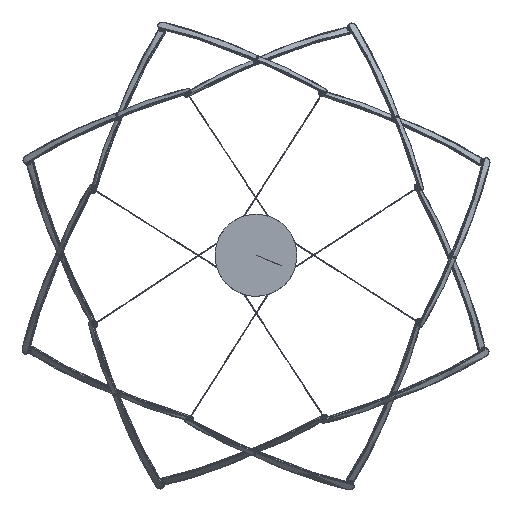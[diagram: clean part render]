
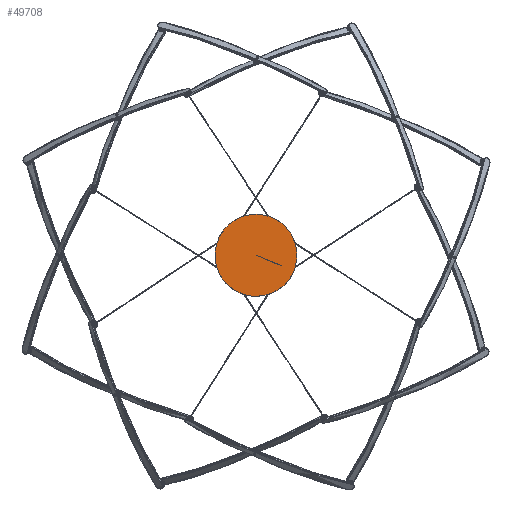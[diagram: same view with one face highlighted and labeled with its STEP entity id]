
A CAD part, top view. The second image highlights one B-rep face of the part: STEP entity #49708.
In plain terms, the highlighted free-form (B-spline) face has degree [3, 3] with [4, 11] control points.
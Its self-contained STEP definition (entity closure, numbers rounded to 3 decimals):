
#5763=B_SPLINE_CURVE_WITH_KNOTS('',3,(#160189,#160190,#160191,#160192),
 .UNSPECIFIED.,.F.,.F.,(4,4),(0.,1.),.UNSPECIFIED.);
#5764=B_SPLINE_CURVE_WITH_KNOTS('',3,(#160193,#160194,#160195,#160196,#160197,
#160198,#160199,#160200,#160201,#160202,#160203),.UNSPECIFIED.,.T.,.F.,
(4,1,1,1,1,1,1,1,4),(2.,3.,4.,5.,6.,7.,8.,9.,10.),.UNSPECIFIED.);
#6585=B_SPLINE_SURFACE_WITH_KNOTS('',3,3,((#160143,#160144,#160145,#160146,
#160147,#160148,#160149,#160150,#160151,#160152,#160153),(#160154,#160155,
#160156,#160157,#160158,#160159,#160160,#160161,#160162,#160163,#160164),
(#160165,#160166,#160167,#160168,#160169,#160170,#160171,#160172,#160173,
#160174,#160175),(#160176,#160177,#160178,#160179,#160180,#160181,#160182,
#160183,#160184,#160185,#160186)),.UNSPECIFIED.,.F.,.T.,.F.,(4,4),(4,1,
1,1,1,1,1,1,4),(0.,1.),(2.,3.,4.,5.,6.,7.,8.,9.,10.),.UNSPECIFIED.);
#10583=FACE_OUTER_BOUND('',#12742,.T.);
#12742=EDGE_LOOP('',(#46451,#46452,#46453));
#27171=VERTEX_POINT('',#160187);
#27172=VERTEX_POINT('',#160188);
#36761=EDGE_CURVE('',#27171,#27172,#5763,.T.);
#36762=EDGE_CURVE('',#27172,#27172,#5764,.T.);
#46451=ORIENTED_EDGE('',*,*,#36761,.T.);
#46452=ORIENTED_EDGE('',*,*,#36762,.T.);
#46453=ORIENTED_EDGE('',*,*,#36761,.F.);
#49708=ADVANCED_FACE('',(#10583),#6585,.T.);
#160143=CARTESIAN_POINT('Ctrl Pts',(0.,0.,61.097));
#160144=CARTESIAN_POINT('Ctrl Pts',(0.,0.,61.097));
#160145=CARTESIAN_POINT('Ctrl Pts',(0.,0.,61.097));
#160146=CARTESIAN_POINT('Ctrl Pts',(0.,0.,61.097));
#160147=CARTESIAN_POINT('Ctrl Pts',(0.,0.,61.097));
#160148=CARTESIAN_POINT('Ctrl Pts',(0.,0.,61.097));
#160149=CARTESIAN_POINT('Ctrl Pts',(0.,0.,61.097));
#160150=CARTESIAN_POINT('Ctrl Pts',(0.,0.,61.097));
#160151=CARTESIAN_POINT('Ctrl Pts',(0.,0.,61.097));
#160152=CARTESIAN_POINT('Ctrl Pts',(0.,0.,61.097));
#160153=CARTESIAN_POINT('Ctrl Pts',(0.,0.,61.097));
#160154=CARTESIAN_POINT('Ctrl Pts',(1.5,0.,61.097));
#160155=CARTESIAN_POINT('Ctrl Pts',(1.5,0.392,61.097));
#160156=CARTESIAN_POINT('Ctrl Pts',(1.175,1.175,61.097));
#160157=CARTESIAN_POINT('Ctrl Pts',(0.,1.662,
61.097));
#160158=CARTESIAN_POINT('Ctrl Pts',(-1.175,1.175,
61.097));
#160159=CARTESIAN_POINT('Ctrl Pts',(-1.662,0.,
61.097));
#160160=CARTESIAN_POINT('Ctrl Pts',(-1.175,-1.175,
61.097));
#160161=CARTESIAN_POINT('Ctrl Pts',(0.,-1.662,
61.097));
#160162=CARTESIAN_POINT('Ctrl Pts',(1.175,-1.175,
61.097));
#160163=CARTESIAN_POINT('Ctrl Pts',(1.5,-0.392,61.097));
#160164=CARTESIAN_POINT('Ctrl Pts',(1.5,0.,61.097));
#160165=CARTESIAN_POINT('Ctrl Pts',(3.,0.,61.097));
#160166=CARTESIAN_POINT('Ctrl Pts',(3.,0.784,61.097));
#160167=CARTESIAN_POINT('Ctrl Pts',(2.351,2.351,61.097));
#160168=CARTESIAN_POINT('Ctrl Pts',(0.,3.325,
61.097));
#160169=CARTESIAN_POINT('Ctrl Pts',(-2.351,2.351,
61.097));
#160170=CARTESIAN_POINT('Ctrl Pts',(-3.325,0.,
61.097));
#160171=CARTESIAN_POINT('Ctrl Pts',(-2.351,-2.351,
61.097));
#160172=CARTESIAN_POINT('Ctrl Pts',(0.,-3.325,
61.097));
#160173=CARTESIAN_POINT('Ctrl Pts',(2.351,-2.351,
61.097));
#160174=CARTESIAN_POINT('Ctrl Pts',(3.,-0.784,61.097));
#160175=CARTESIAN_POINT('Ctrl Pts',(3.,0.,61.097));
#160176=CARTESIAN_POINT('Ctrl Pts',(4.5,0.,61.097));
#160177=CARTESIAN_POINT('Ctrl Pts',(4.5,1.175,61.097));
#160178=CARTESIAN_POINT('Ctrl Pts',(3.526,3.526,61.097));
#160179=CARTESIAN_POINT('Ctrl Pts',(0.,4.987,
61.097));
#160180=CARTESIAN_POINT('Ctrl Pts',(-3.526,3.526,
61.097));
#160181=CARTESIAN_POINT('Ctrl Pts',(-4.987,0.,
61.097));
#160182=CARTESIAN_POINT('Ctrl Pts',(-3.526,-3.526,
61.097));
#160183=CARTESIAN_POINT('Ctrl Pts',(0.,-4.987,
61.097));
#160184=CARTESIAN_POINT('Ctrl Pts',(3.526,-3.526,
61.097));
#160185=CARTESIAN_POINT('Ctrl Pts',(4.5,-1.175,61.097));
#160186=CARTESIAN_POINT('Ctrl Pts',(4.5,0.,61.097));
#160187=CARTESIAN_POINT('',(0.,0.,61.097));
#160188=CARTESIAN_POINT('',(4.5,0.,61.097));
#160189=CARTESIAN_POINT('Ctrl Pts',(0.,0.,61.097));
#160190=CARTESIAN_POINT('Ctrl Pts',(1.5,0.,61.097));
#160191=CARTESIAN_POINT('Ctrl Pts',(3.,0.,61.097));
#160192=CARTESIAN_POINT('Ctrl Pts',(4.5,0.,61.097));
#160193=CARTESIAN_POINT('Ctrl Pts',(4.5,0.,61.097));
#160194=CARTESIAN_POINT('Ctrl Pts',(4.5,1.175,61.097));
#160195=CARTESIAN_POINT('Ctrl Pts',(3.526,3.526,61.097));
#160196=CARTESIAN_POINT('Ctrl Pts',(0.,4.987,
61.097));
#160197=CARTESIAN_POINT('Ctrl Pts',(-3.526,3.526,
61.097));
#160198=CARTESIAN_POINT('Ctrl Pts',(-4.987,0.,
61.097));
#160199=CARTESIAN_POINT('Ctrl Pts',(-3.526,-3.526,
61.097));
#160200=CARTESIAN_POINT('Ctrl Pts',(0.,-4.987,
61.097));
#160201=CARTESIAN_POINT('Ctrl Pts',(3.526,-3.526,
61.097));
#160202=CARTESIAN_POINT('Ctrl Pts',(4.5,-1.175,61.097));
#160203=CARTESIAN_POINT('Ctrl Pts',(4.5,0.,61.097));
